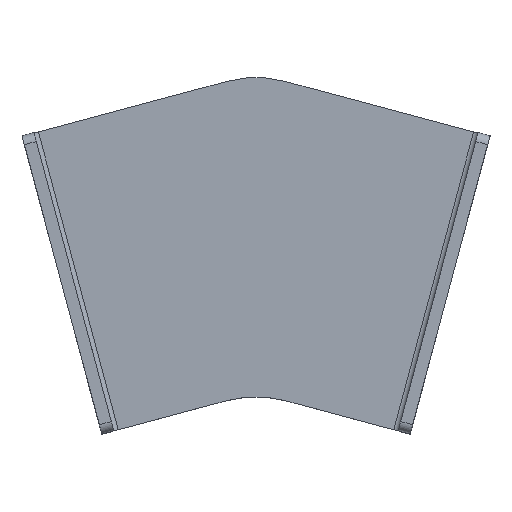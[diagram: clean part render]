
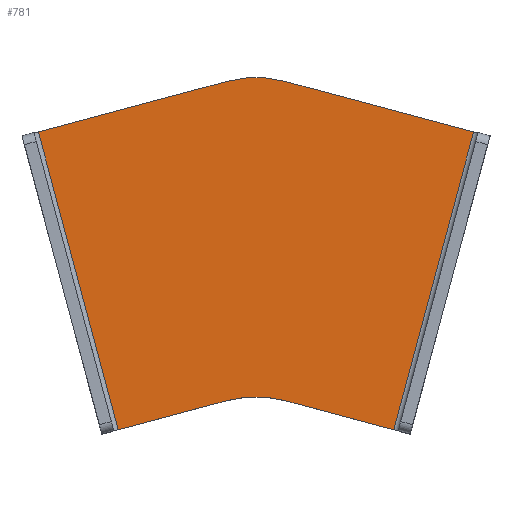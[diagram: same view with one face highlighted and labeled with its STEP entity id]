
A CAD part, top view. The second image highlights one B-rep face of the part: STEP entity #781.
In plain terms, the highlighted planar face has unit normal (0, 0, 1).
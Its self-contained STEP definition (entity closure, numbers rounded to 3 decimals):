
#17 = LINE ( 'NONE', #1103, #1642 ) ;
#61 = CARTESIAN_POINT ( 'NONE',  ( 23.521, 100.861, 4. ) ) ;
#70 = LINE ( 'NONE', #1280, #1694 ) ;
#95 = EDGE_CURVE ( 'NONE', #774, #1896, #17, .T. ) ;
#104 = ORIENTED_EDGE ( 'NONE', *, *, #1862, .T. ) ;
#160 = DIRECTION ( 'NONE',  ( 0.259, -0.966, 0. ) ) ;
#203 = VECTOR ( 'NONE', #662, 1000. ) ;
#212 = CARTESIAN_POINT ( 'NONE',  ( 85.032, 84.38, 4. ) ) ;
#262 = CARTESIAN_POINT ( 'NONE',  ( -61.419, 82.956, 4. ) ) ;
#292 = LINE ( 'NONE', #262, #1094 ) ;
#314 = EDGE_CURVE ( 'NONE', #1586, #1831, #70, .T. ) ;
#341 = CARTESIAN_POINT ( 'NONE',  ( 64.463, -13.636, 4. ) ) ;
#358 = FACE_OUTER_BOUND ( 'NONE', #1544, .T. ) ;
#388 = ORIENTED_EDGE ( 'NONE', *, *, #1036, .T. ) ;
#395 = CARTESIAN_POINT ( 'NONE',  ( 14.463, -36.474, 4. ) ) ;
#419 = EDGE_CURVE ( 'NONE', #584, #774, #1545, .T. ) ;
#447 = ORIENTED_EDGE ( 'NONE', *, *, #1181, .T. ) ;
#460 = ORIENTED_EDGE ( 'NONE', *, *, #419, .T. ) ;
#480 = DIRECTION ( 'NONE',  ( -0.966, 0.259, 0. ) ) ;
#503 = CARTESIAN_POINT ( 'NONE',  ( -56.107, 84.38, 4. ) ) ;
#520 = PLANE ( 'NONE',  #1887 ) ;
#584 = VERTEX_POINT ( 'NONE', #1669 ) ;
#611 = VERTEX_POINT ( 'NONE', #1537 ) ;
#637 = ORIENTED_EDGE ( 'NONE', *, *, #314, .T. ) ;
#662 = DIRECTION ( 'NONE',  ( 0.966, -0.259, 0. ) ) ;
#705 = VERTEX_POINT ( 'NONE', #503 ) ;
#725 = DIRECTION ( 'NONE',  ( -1., 0., 0. ) ) ;
#774 = VERTEX_POINT ( 'NONE', #1156 ) ;
#781 = ADVANCED_FACE ( 'NONE', ( #358 ), #520, .F. ) ;
#861 = DIRECTION ( 'NONE',  ( 0., 0., -1. ) ) ;
#873 = CARTESIAN_POINT ( 'NONE',  ( 0., 0., 4. ) ) ;
#882 = DIRECTION ( 'NONE',  ( 0.259, 0.966, 0. ) ) ;
#922 = CARTESIAN_POINT ( 'NONE',  ( 14.463, 67.054, 4. ) ) ;
#1016 = DIRECTION ( 'NONE',  ( -1., 0., 0. ) ) ;
#1017 = EDGE_CURVE ( 'NONE', #1831, #584, #1964, .T. ) ;
#1036 = EDGE_CURVE ( 'NONE', #611, #705, #292, .T. ) ;
#1094 = VECTOR ( 'NONE', #1687, 1000. ) ;
#1103 = CARTESIAN_POINT ( 'NONE',  ( 85.032, 84.38, 4. ) ) ;
#1156 = CARTESIAN_POINT ( 'NONE',  ( 59.15, -12.213, 4. ) ) ;
#1176 = CARTESIAN_POINT ( 'NONE',  ( 5.404, -2.666, 4. ) ) ;
#1181 = EDGE_CURVE ( 'NONE', #705, #1586, #1986, .T. ) ;
#1280 = CARTESIAN_POINT ( 'NONE',  ( -35.537, -13.636, 4. ) ) ;
#1305 = ORIENTED_EDGE ( 'NONE', *, *, #1017, .T. ) ;
#1391 = EDGE_CURVE ( 'NONE', #1896, #1678, #1546, .T. ) ;
#1403 = CIRCLE ( 'NONE', #1506, 35. ) ;
#1453 = VECTOR ( 'NONE', #480, 1000. ) ;
#1469 = DIRECTION ( 'NONE',  ( 0., 0., -1. ) ) ;
#1497 = ORIENTED_EDGE ( 'NONE', *, *, #1391, .T. ) ;
#1506 = AXIS2_PLACEMENT_3D ( 'NONE', #922, #1557, #1838 ) ;
#1537 = CARTESIAN_POINT ( 'NONE',  ( 5.404, 100.861, 4. ) ) ;
#1539 = VECTOR ( 'NONE', #160, 1000. ) ;
#1544 = EDGE_LOOP ( 'NONE', ( #388, #447, #637, #1305, #460, #1811, #1497, #104 ) ) ;
#1545 = LINE ( 'NONE', #341, #203 ) ;
#1546 = LINE ( 'NONE', #1547, #1453 ) ;
#1547 = CARTESIAN_POINT ( 'NONE',  ( 90.345, 82.956, 4. ) ) ;
#1557 = DIRECTION ( 'NONE',  ( 0., 0., 1. ) ) ;
#1582 = CARTESIAN_POINT ( 'NONE',  ( -30.225, -12.213, 4. ) ) ;
#1586 = VERTEX_POINT ( 'NONE', #1814 ) ;
#1642 = VECTOR ( 'NONE', #882, 1000. ) ;
#1669 = CARTESIAN_POINT ( 'NONE',  ( 23.521, -2.666, 4. ) ) ;
#1678 = VERTEX_POINT ( 'NONE', #61 ) ;
#1687 = DIRECTION ( 'NONE',  ( -0.966, -0.259, 0. ) ) ;
#1694 = VECTOR ( 'NONE', #1782, 1000. ) ;
#1782 = DIRECTION ( 'NONE',  ( 0.966, 0.259, 0. ) ) ;
#1811 = ORIENTED_EDGE ( 'NONE', *, *, #95, .T. ) ;
#1814 = CARTESIAN_POINT ( 'NONE',  ( -30.225, -12.213, 4. ) ) ;
#1831 = VERTEX_POINT ( 'NONE', #1176 ) ;
#1838 = DIRECTION ( 'NONE',  ( -1., 0., 0. ) ) ;
#1862 = EDGE_CURVE ( 'NONE', #1678, #611, #1403, .T. ) ;
#1887 = AXIS2_PLACEMENT_3D ( 'NONE', #873, #1469, #1016 ) ;
#1896 = VERTEX_POINT ( 'NONE', #212 ) ;
#1925 = AXIS2_PLACEMENT_3D ( 'NONE', #395, #861, #725 ) ;
#1964 = CIRCLE ( 'NONE', #1925, 35. ) ;
#1986 = LINE ( 'NONE', #1582, #1539 ) ;
